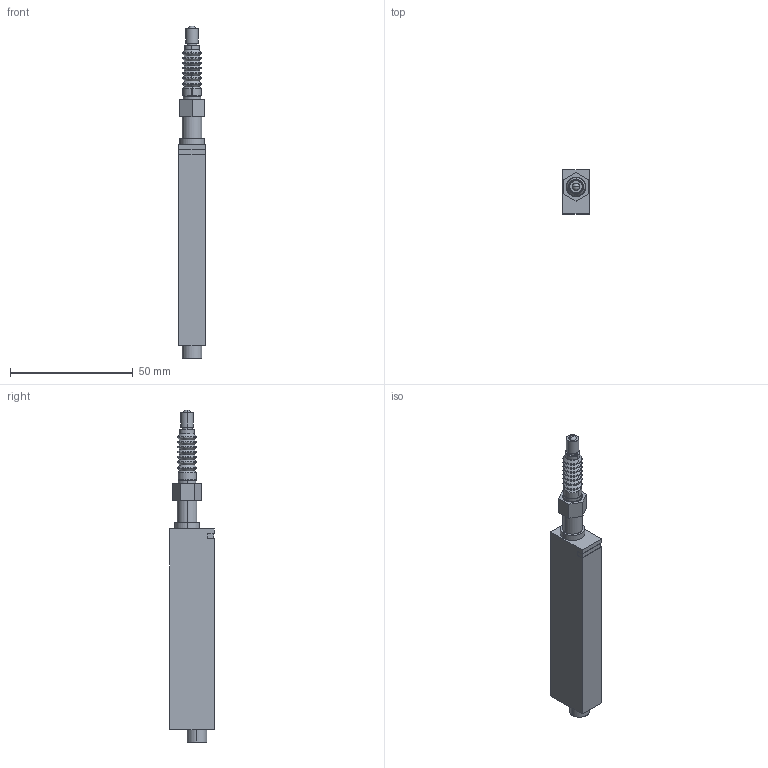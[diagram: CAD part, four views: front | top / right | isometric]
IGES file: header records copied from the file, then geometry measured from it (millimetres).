
Start section: SolidWorks IGES file using analytic representation for surfaces
Global section: file name: C:\catalog\hg-s1010.IGS; native system: SolidWorks 2010; preprocessor: SolidWorks 2010; author: 90C1158; date: 151005.114958; units: millimetre
Bounding box: 11 x 18 x 135.5 mm (x, y, z)
Surface area: 7984.8 mm2 (no closed solid volume)
Topology: 0 solids, 0 shells, 199 faces, 1741 edges, 1735 vertices
Faces by surface type: bspline 103, revolution 96
